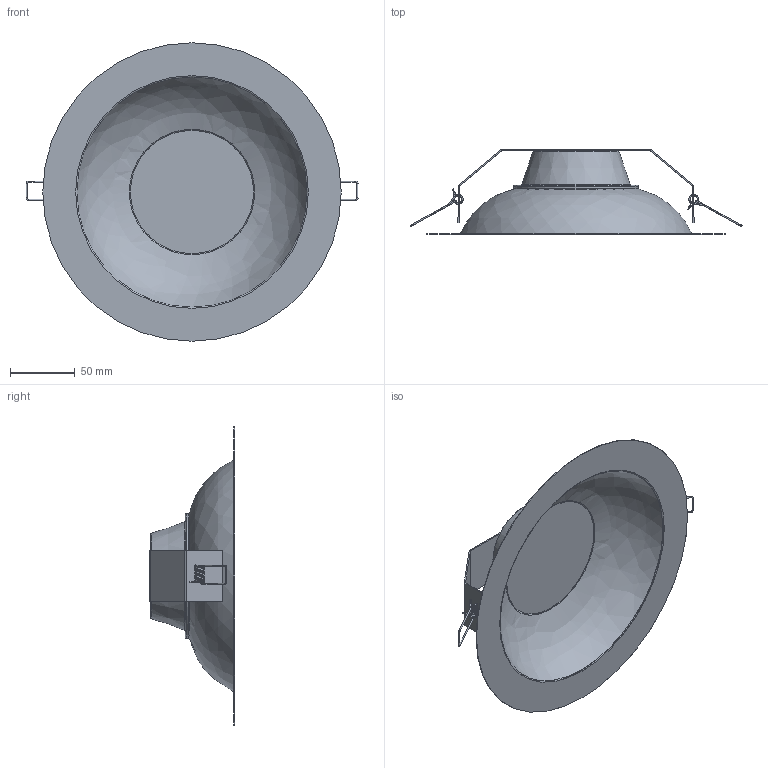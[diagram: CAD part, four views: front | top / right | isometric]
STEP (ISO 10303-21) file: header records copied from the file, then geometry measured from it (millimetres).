
FILE_DESCRIPTION(/* description */ (''),/* implementation_level */ '2;1');
FILE_NAME(/* name */ 'NEW_WHITE_230_NWI230P.stp',/* time_stamp */ '2025-09-22T14:31:00+02:00',/* author */ ('gian.noche'),/* organization */ (''),/* preprocessor_version */ 'ST-DEVELOPER v19.2',/* originating_system */ 'Autodesk Inventor 2023',/* authorisation */ '');
FILE_SCHEMA (('AUTOMOTIVE_DESIGN { 1 0 10303 214 3 1 1 }'));
Length unit declared in the file: millimetre
Products named in the file (1): IDP_146_NEW_WHITE_230_Semplifica_1
Bounding box: 255.83 x 65.5 x 230 mm (x, y, z)
Volume: 173668.1 mm3; surface area: 122183 mm2
Topology: 1 solids, 1 shells, 126 faces, 280 edges, 163 vertices
Faces by surface type: bspline 53, plane 41, cylinder 19, torus 12, cone 1
Full cylindrical faces by diameter (mm): 1 x5, 95 x1, 95.2 x1, 96.2 x1, 230 x1
Entity records: 9123 total; most frequent: CARTESIAN_POINT 6539, ORIENTED_EDGE 560, DIRECTION 398, EDGE_CURVE 280, EDGE_LOOP 187, VERTEX_POINT 163, AXIS2_PLACEMENT_3D 156, FACE_OUTER_BOUND 126
